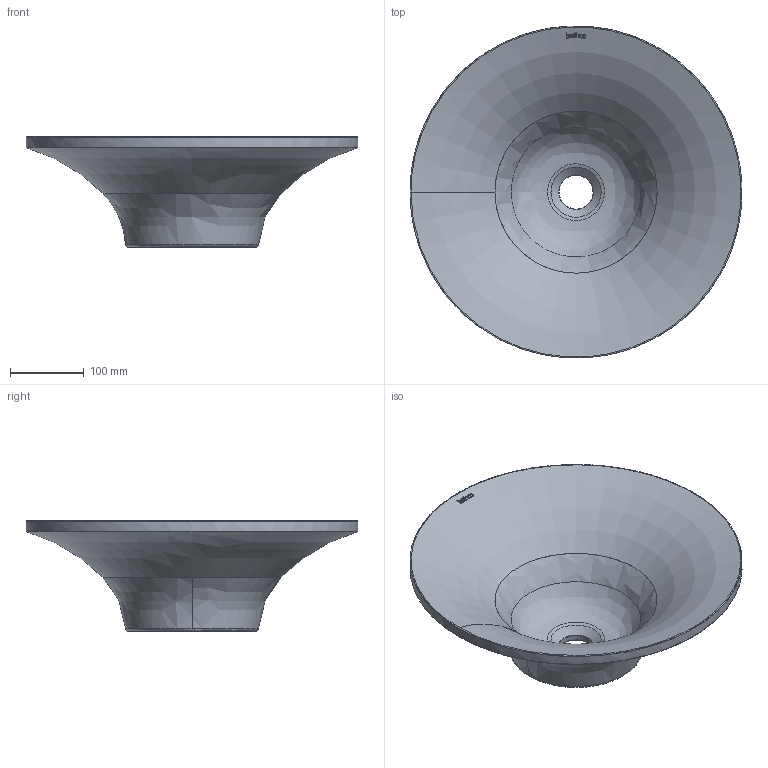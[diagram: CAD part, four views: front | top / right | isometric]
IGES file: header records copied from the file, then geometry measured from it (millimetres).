
Global section: file name: C:\Users\hp\Desktop\8334_Bulnes.igs; native system: Rhinoceros ( Dec 10 2024 ); preprocessor: Trout Lake IGES 012 Dec 10 2024; date: 250122.113349; units: millimetre
Bounding box: 449.85 x 449.75 x 149.71 mm (x, y, z)
Surface area: 429033.6 mm2 (no closed solid volume)
Topology: 0 solids, 0 shells, 87 faces, 524 edges, 490 vertices
Faces by surface type: bspline 87
